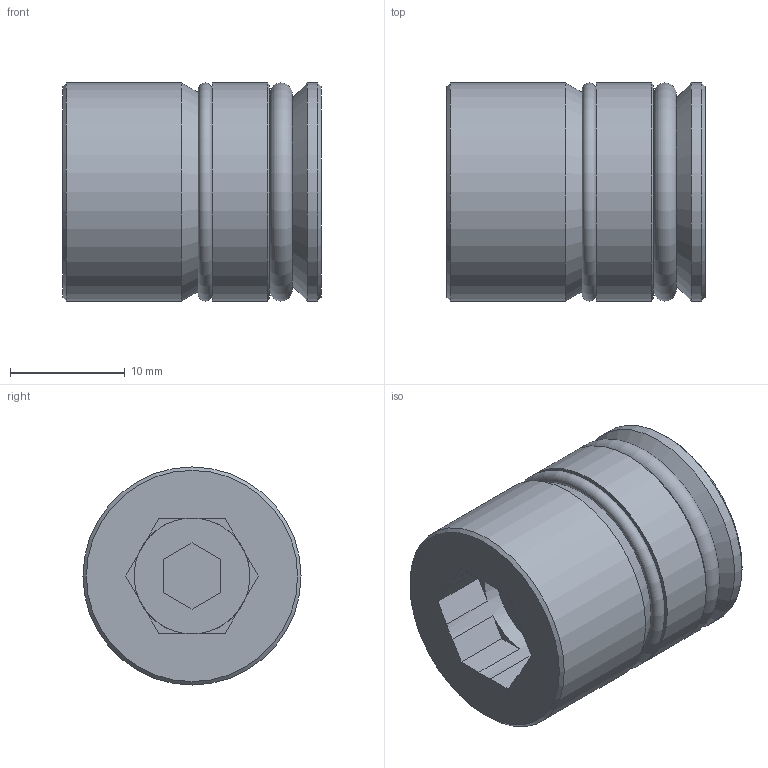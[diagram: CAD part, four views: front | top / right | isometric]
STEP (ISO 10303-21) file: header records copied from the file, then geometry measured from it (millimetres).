
FILE_DESCRIPTION( ( 'STEP AP214' ), '1' );
FILE_NAME( 'p:/temp/worker_238/temp/exporttempdir_3288_66_7nAHd/format_0/TRI-19.stp', '2021-02-05T19:29:37', ( 'License CC BY-ND 4.0' ), ( 'CADENAS' ), ' ', 'PARTsolutions', ' ' );
FILE_SCHEMA( ( 'AUTOMOTIVE_DESIGN { 1 0 10303 214 1 1 1 1 }' ) );
Length unit declared in the file: millimetre
Products named in the file (1): _TRI-19
Bounding box: 22.5 x 19 x 19 mm (x, y, z)
Volume: 5536.9 mm3; surface area: 2503.5 mm2
Topology: 1 solids, 1 shells, 41 faces, 98 edges, 63 vertices
Faces by surface type: plane 30, cone 5, cylinder 4, torus 2
Full cylindrical faces by diameter (mm): 10.1 x1, 19 x3
Entity records: 1470 total; most frequent: DIRECTION 196, CARTESIAN_POINT 192, ORIENTED_EDGE 172, EDGE_CURVE 86, AXIS2_PLACEMENT_3D 68, VERTEX_POINT 64, LINE 60, VECTOR 60
